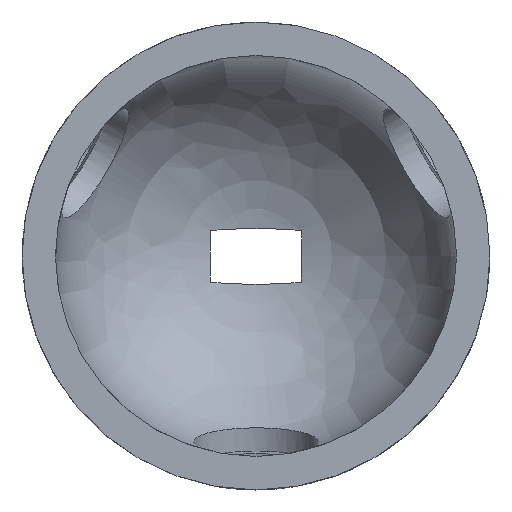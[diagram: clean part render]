
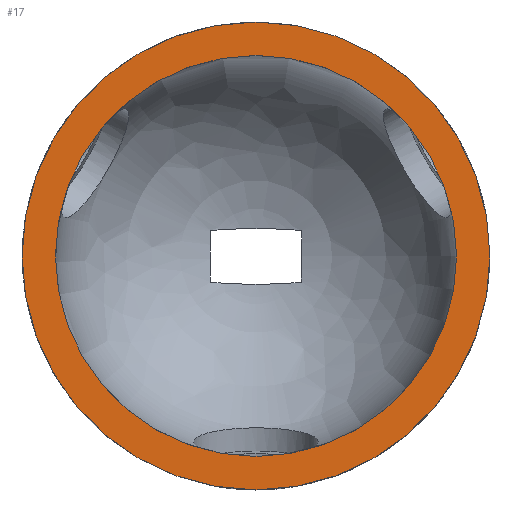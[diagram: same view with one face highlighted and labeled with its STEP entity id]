
A CAD part, top view. The second image highlights one B-rep face of the part: STEP entity #17.
In plain terms, the highlighted planar face has unit normal (0, 0, 1).
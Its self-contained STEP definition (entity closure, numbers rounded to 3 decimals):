
#17 = ADVANCED_FACE('',(#18,#54),#31,.T.);
#18 = FACE_BOUND('',#19,.F.);
#19 = EDGE_LOOP('',(#20));
#20 = ORIENTED_EDGE('',*,*,#21,.T.);
#21 = EDGE_CURVE('',#22,#22,#24,.T.);
#22 = VERTEX_POINT('',#23);
#23 = CARTESIAN_POINT('',(18.,0.,0.));
#24 = SURFACE_CURVE('',#25,(#30,#42),.PCURVE_S1.);
#25 = CIRCLE('',#26,18.);
#26 = AXIS2_PLACEMENT_3D('',#27,#28,#29);
#27 = CARTESIAN_POINT('',(0.,0.,0.));
#28 = DIRECTION('',(0.,0.,1.));
#29 = DIRECTION('',(1.,0.,-0.));
#30 = PCURVE('',#31,#36);
#31 = PLANE('',#32);
#32 = AXIS2_PLACEMENT_3D('',#33,#34,#35);
#33 = CARTESIAN_POINT('',(0.,0.,0.));
#34 = DIRECTION('',(0.,0.,1.));
#35 = DIRECTION('',(1.,0.,-0.));
#36 = DEFINITIONAL_REPRESENTATION('',(#37),#41);
#37 = CIRCLE('',#38,18.);
#38 = AXIS2_PLACEMENT_2D('',#39,#40);
#39 = CARTESIAN_POINT('',(0.,0.));
#40 = DIRECTION('',(1.,-0.));
#41 = ( GEOMETRIC_REPRESENTATION_CONTEXT(2) 
PARAMETRIC_REPRESENTATION_CONTEXT() REPRESENTATION_CONTEXT('2D SPACE',''
  ) );
#42 = PCURVE('',#43,#48);
#43 = CYLINDRICAL_SURFACE('',#44,18.);
#44 = AXIS2_PLACEMENT_3D('',#45,#46,#47);
#45 = CARTESIAN_POINT('',(0.,0.,-4.));
#46 = DIRECTION('',(0.,0.,1.));
#47 = DIRECTION('',(1.,0.,-0.));
#48 = DEFINITIONAL_REPRESENTATION('',(#49),#53);
#49 = LINE('',#50,#51);
#50 = CARTESIAN_POINT('',(0.,4.));
#51 = VECTOR('',#52,1.);
#52 = DIRECTION('',(1.,0.));
#53 = ( GEOMETRIC_REPRESENTATION_CONTEXT(2) 
PARAMETRIC_REPRESENTATION_CONTEXT() REPRESENTATION_CONTEXT('2D SPACE',''
  ) );
#54 = FACE_BOUND('',#55,.F.);
#55 = EDGE_LOOP('',(#56));
#56 = ORIENTED_EDGE('',*,*,#57,.F.);
#57 = EDGE_CURVE('',#58,#58,#60,.T.);
#58 = VERTEX_POINT('',#59);
#59 = CARTESIAN_POINT('',(21.,0.,0.));
#60 = SURFACE_CURVE('',#61,(#66,#73),.PCURVE_S1.);
#61 = CIRCLE('',#62,21.);
#62 = AXIS2_PLACEMENT_3D('',#63,#64,#65);
#63 = CARTESIAN_POINT('',(0.,0.,0.));
#64 = DIRECTION('',(0.,0.,1.));
#65 = DIRECTION('',(1.,0.,-0.));
#66 = PCURVE('',#31,#67);
#67 = DEFINITIONAL_REPRESENTATION('',(#68),#72);
#68 = CIRCLE('',#69,21.);
#69 = AXIS2_PLACEMENT_2D('',#70,#71);
#70 = CARTESIAN_POINT('',(0.,0.));
#71 = DIRECTION('',(1.,-0.));
#72 = ( GEOMETRIC_REPRESENTATION_CONTEXT(2) 
PARAMETRIC_REPRESENTATION_CONTEXT() REPRESENTATION_CONTEXT('2D SPACE',''
  ) );
#73 = PCURVE('',#74,#79);
#74 = CYLINDRICAL_SURFACE('',#75,21.);
#75 = AXIS2_PLACEMENT_3D('',#76,#77,#78);
#76 = CARTESIAN_POINT('',(0.,0.,0.));
#77 = DIRECTION('',(-0.,-0.,-1.));
#78 = DIRECTION('',(1.,0.,0.));
#79 = DEFINITIONAL_REPRESENTATION('',(#80),#84);
#80 = LINE('',#81,#82);
#81 = CARTESIAN_POINT('',(-0.,0.));
#82 = VECTOR('',#83,1.);
#83 = DIRECTION('',(-1.,0.));
#84 = ( GEOMETRIC_REPRESENTATION_CONTEXT(2) 
PARAMETRIC_REPRESENTATION_CONTEXT() REPRESENTATION_CONTEXT('2D SPACE',''
  ) );
